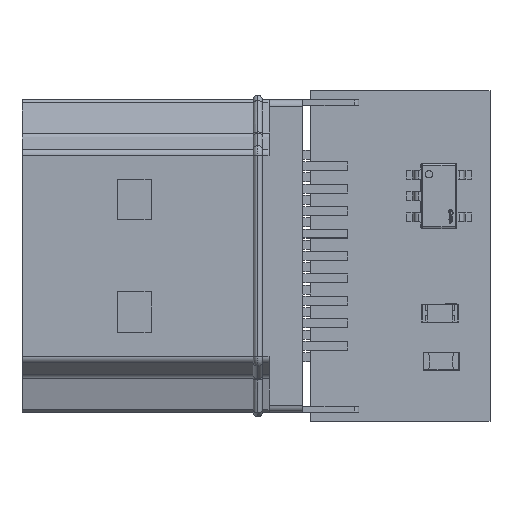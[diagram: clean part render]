
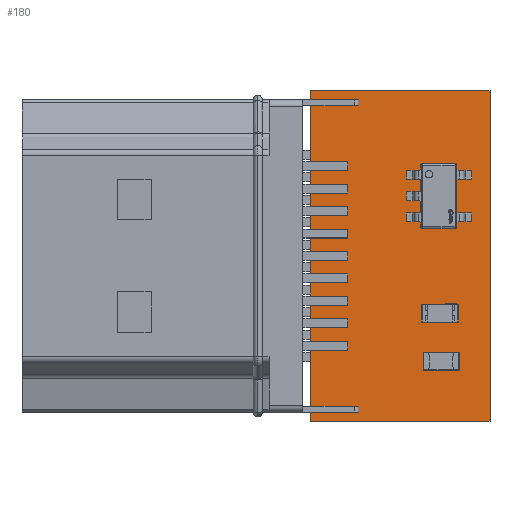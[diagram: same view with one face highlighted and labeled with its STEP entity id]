
A CAD part, top view. The second image highlights one B-rep face of the part: STEP entity #180.
In plain terms, the highlighted planar face has unit normal (0, 0, 1).
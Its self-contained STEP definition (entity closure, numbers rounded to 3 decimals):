
#51 = VERTEX_POINT('',#52);
#52 = CARTESIAN_POINT('',(8.115,-0.013,
    1.6));
#58 = EDGE_CURVE('',#51,#59,#61,.T.);
#59 = VERTEX_POINT('',#60);
#60 = CARTESIAN_POINT('',(8.115,-14.719,1.6)
  );
#61 = LINE('',#62,#63);
#62 = CARTESIAN_POINT('',(8.115,-0.013,
    1.6));
#63 = VECTOR('',#64,1.);
#64 = DIRECTION('',(0.,-1.,0.));
#89 = EDGE_CURVE('',#59,#90,#92,.T.);
#90 = VERTEX_POINT('',#91);
#91 = CARTESIAN_POINT('',(0.14,-14.719,1.6)
  );
#92 = LINE('',#93,#94);
#93 = CARTESIAN_POINT('',(8.115,-14.719,1.6)
  );
#94 = VECTOR('',#95,1.);
#95 = DIRECTION('',(-1.,0.,0.));
#120 = EDGE_CURVE('',#90,#121,#123,.T.);
#121 = VERTEX_POINT('',#122);
#122 = CARTESIAN_POINT('',(0.14,-0.013,
    1.6));
#123 = LINE('',#124,#125);
#124 = CARTESIAN_POINT('',(0.14,-14.719,1.6
    ));
#125 = VECTOR('',#126,1.);
#126 = DIRECTION('',(0.,1.,0.));
#151 = EDGE_CURVE('',#121,#51,#152,.T.);
#152 = LINE('',#153,#154);
#153 = CARTESIAN_POINT('',(0.14,-0.013,
    1.6));
#154 = VECTOR('',#155,1.);
#155 = DIRECTION('',(1.,0.,0.));
#180 = ADVANCED_FACE('',(#181),#187,.F.);
#181 = FACE_BOUND('',#182,.F.);
#182 = EDGE_LOOP('',(#183,#184,#185,#186));
#183 = ORIENTED_EDGE('',*,*,#58,.T.);
#184 = ORIENTED_EDGE('',*,*,#89,.T.);
#185 = ORIENTED_EDGE('',*,*,#120,.T.);
#186 = ORIENTED_EDGE('',*,*,#151,.T.);
#187 = PLANE('',#188);
#188 = AXIS2_PLACEMENT_3D('',#189,#190,#191);
#189 = CARTESIAN_POINT('',(4.128,-7.366,1.6
    ));
#190 = DIRECTION('',(-0.,-0.,-1.));
#191 = DIRECTION('',(-1.,0.,0.));
